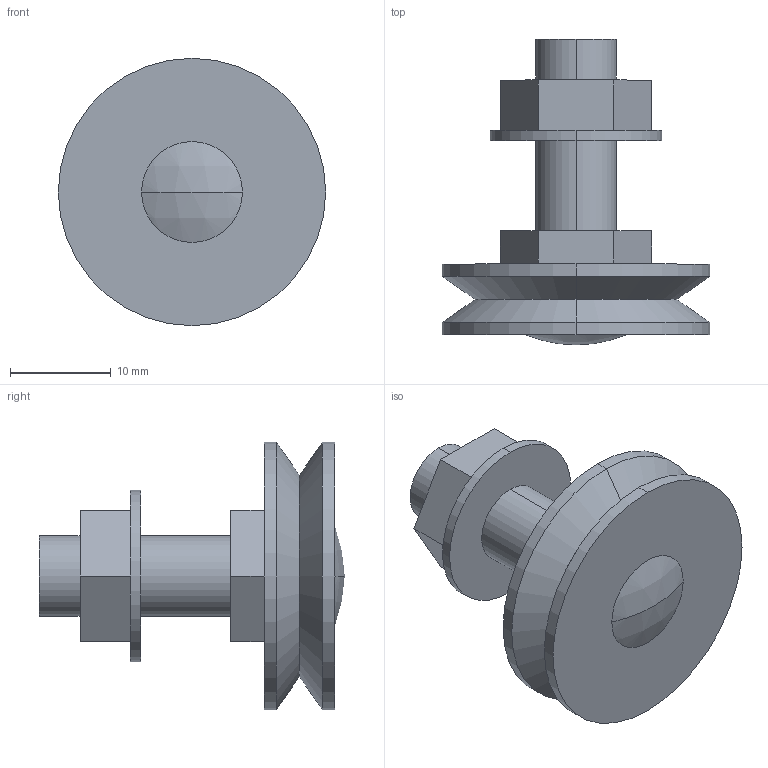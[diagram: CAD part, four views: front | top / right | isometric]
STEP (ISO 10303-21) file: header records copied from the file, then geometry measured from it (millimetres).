
FILE_DESCRIPTION(('STEP AP203'),'1');
FILE_NAME('glj_265_c_ns.stp','2021-09-29T05:39:39',('TraceParts'),('TraceParts S.A.'),'Spatial InterOp 3D',' ',' ');
FILE_SCHEMA(('CONFIG_CONTROL_DESIGN'));
Length unit declared in the file: millimetre
Products named in the file (1): 1
Bounding box: 26.5 x 30.3 x 26.5 mm (x, y, z)
Volume: 5427.1 mm3; surface area: 2997.4 mm2
Topology: 1 solids, 1 shells, 35 faces, 76 edges, 49 vertices
Faces by surface type: plane 19, cylinder 10, cone 4, sphere 2
Entity records: 1000 total; most frequent: DIRECTION 174, CARTESIAN_POINT 161, ORIENTED_EDGE 152, EDGE_CURVE 76, AXIS2_PLACEMENT_3D 62, LINE 50, VECTOR 50, VERTEX_POINT 49
